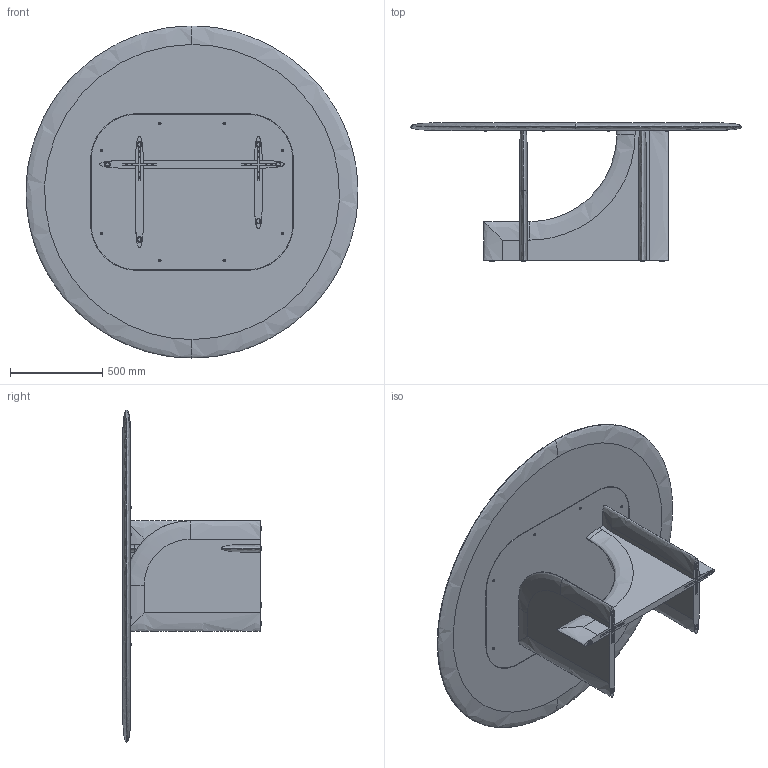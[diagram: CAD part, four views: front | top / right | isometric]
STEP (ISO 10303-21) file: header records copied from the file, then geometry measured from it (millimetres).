
FILE_DESCRIPTION (( 'STEP AP214' ), '1' );
FILE_NAME ('SELCE-T_diam 1800.STEP', '2025-05-16T15:53:20', ( '' ), ( '' ), 'SwSTEP 2.0', 'SolidWorks 2023', '' );
FILE_SCHEMA (( 'AUTOMOTIVE_DESIGN' ));
Length unit declared in the file: millimetre
Products named in the file (7): SCIVOLO_IPEA_20PTPD007N; CROCE FERRO; TOP_DIAM 1800; GAMBE e PIASTRA_PIASTRA A; SELCE-T_diam 1800; GAMBE e PIASTRA_GAMBA A; ISO 7380 - M8 x 20
Assembly tree (20 placements, depth 2):
  SELCE-T_diam 1800
    TOP_DIAM 1800
    GAMBE e PIASTRA_GAMBA A
    GAMBE e PIASTRA_PIASTRA A
    CROCE FERRO  x3
    SCIVOLO_IPEA_20PTPD007N  x6
    ISO 7380 - M8 x 20  x8
Bounding box: 1799.85 x 749 x 1800 mm (x, y, z)
Volume: 136402001.3 mm3; surface area: 9447808.1 mm2
Topology: 24 solids, 24 shells, 1496 faces, 3638 edges, 2168 vertices
Faces by surface type: cone 612, cylinder 500, plane 306, bspline 78
Entity records: 20237 total; most frequent: CARTESIAN_POINT 6263, DIRECTION 2941, ORIENTED_EDGE 2752, EDGE_CURVE 1376, AXIS2_PLACEMENT_3D 1116, VERTEX_POINT 871, VECTOR 709, LINE 709
